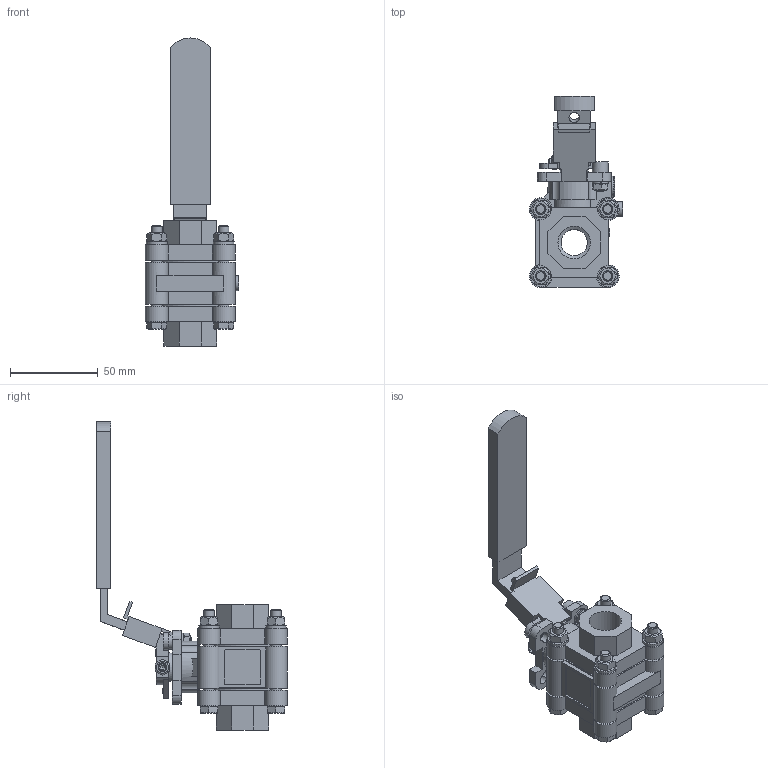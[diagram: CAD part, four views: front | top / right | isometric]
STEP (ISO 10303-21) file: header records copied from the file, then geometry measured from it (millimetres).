
FILE_DESCRIPTION(/* description */ ('Eriks item no: 13278896'),/* implementation_level */ '2;1');
FILE_NAME(/* name */ 'L:\DATA\ENG\Inventor\Econ 3D modellen\kogelkranen\7442\Rubens Versie\7442-DN15-FB.stp',/* time_stamp */ '2023-06-07T22:20:36+02:00',/* author */ ('roger.thijssen'),/* organization */ (''),/* preprocessor_version */ 'ST-DEVELOPER v18',/* originating_system */ 'Autodesk Inventor 2020',/* authorisation */ '');
FILE_SCHEMA (('CONFIG_CONTROL_DESIGN'));
Length unit declared in the file: millimetre
Products named in the file (1): Ball valve, 7442 - 1/2" - FB, (TF4103)
Bounding box: 53.18 x 108.78 x 175.8 mm (x, y, z)
Volume: 140870.6 mm3; surface area: 50154 mm2
Topology: 1 solids, 1 shells, 628 faces, 1669 edges, 1090 vertices
Faces by surface type: plane 389, cylinder 145, cone 62, bspline 30, sphere 1, torus 1
Full cylindrical faces by diameter (mm): 5 x4, 5.5 x1, 6 x9, 7 x12, 8.5 x1, 8.566 x1, 8.9 x4, 9 x1, 12 x1, 15 x1, 18.631 x2, 23 x1, 25 x1, 29 x1, 39.5 x2
Entity records: 20074 total; most frequent: CARTESIAN_POINT 4301, ORIENTED_EDGE 3336, DIRECTION 3146, EDGE_CURVE 1668, AXIS2_PLACEMENT_3D 1099, VERTEX_POINT 1090, LINE 948, VECTOR 948
